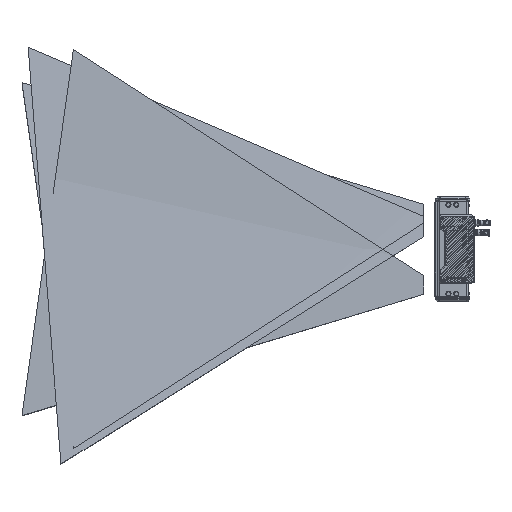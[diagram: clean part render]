
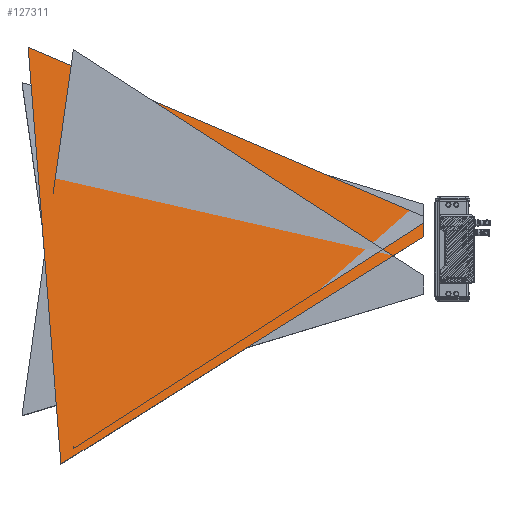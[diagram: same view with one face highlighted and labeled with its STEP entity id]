
A CAD part, top view. The second image highlights one B-rep face of the part: STEP entity #127311.
In plain terms, the highlighted planar face has unit normal (0.303, 0.024, 0.953).
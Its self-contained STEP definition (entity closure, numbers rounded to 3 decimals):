
#127221=DIRECTION('',(0.885,-0.378,-0.272));
#127222=VECTOR('',#127221,1006.139);
#127223=CARTESIAN_POINT('',(-956.036,453.999,
287.227));
#127224=LINE('',#127223,#127222);
#127233=DIRECTION('',(0.,-1.,0.025));
#127234=VECTOR('',#127233,45.967);
#127235=CARTESIAN_POINT('',(-65.5,74.153,13.407));
#127236=LINE('',#127235,#127234);
#127237=DIRECTION('',(0.815,0.511,-0.272));
#127238=VECTOR('',#127237,1001.911);
#127239=CARTESIAN_POINT('',(-882.205,-484.117,
287.227));
#127240=LINE('',#127239,#127238);
#127241=DIRECTION('',(-0.078,0.997,0.));
#127242=VECTOR('',#127241,941.017);
#127243=CARTESIAN_POINT('',(-882.205,-484.117,
287.227));
#127244=LINE('',#127243,#127242);
#127265=CARTESIAN_POINT('',(-65.5,74.153,13.407));
#127267=VERTEX_POINT('',#127265);
#127270=CARTESIAN_POINT('',(-956.036,453.999,
287.227));
#127272=VERTEX_POINT('',#127270);
#127273=CARTESIAN_POINT('',(-65.5,28.201,14.558));
#127274=VERTEX_POINT('',#127273);
#127275=CARTESIAN_POINT('',(-882.205,-484.117,
287.227));
#127276=VERTEX_POINT('',#127275);
#127297=CARTESIAN_POINT('',(-491.449,18.6,
150.317));
#127298=DIRECTION('',(0.303,0.024,0.953));
#127299=DIRECTION('',(-0.95,-0.075,0.304));
#127300=AXIS2_PLACEMENT_3D('',#127297,#127298,#127299);
#127301=PLANE('',#127300);
#127303=ORIENTED_EDGE('',*,*,#127302,.T.);
#127305=ORIENTED_EDGE('',*,*,#127304,.F.);
#127307=ORIENTED_EDGE('',*,*,#127306,.T.);
#127308=ORIENTED_EDGE('',*,*,#127288,.T.);
#127309=EDGE_LOOP('',(#127303,#127305,#127307,#127308));
#127310=FACE_OUTER_BOUND('',#127309,.F.);
#127288=EDGE_CURVE('',#127272,#127267,#127224,.T.);
#127302=EDGE_CURVE('',#127267,#127274,#127236,.T.);
#127304=EDGE_CURVE('',#127276,#127274,#127240,.T.);
#127306=EDGE_CURVE('',#127276,#127272,#127244,.T.);
#127311=ADVANCED_FACE('',(#127310),#127301,.T.);
